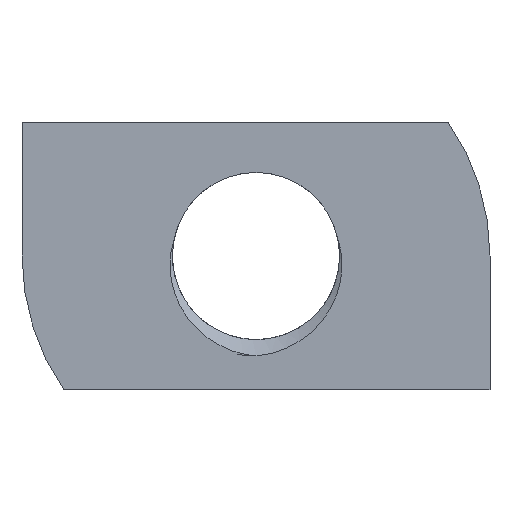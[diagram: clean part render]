
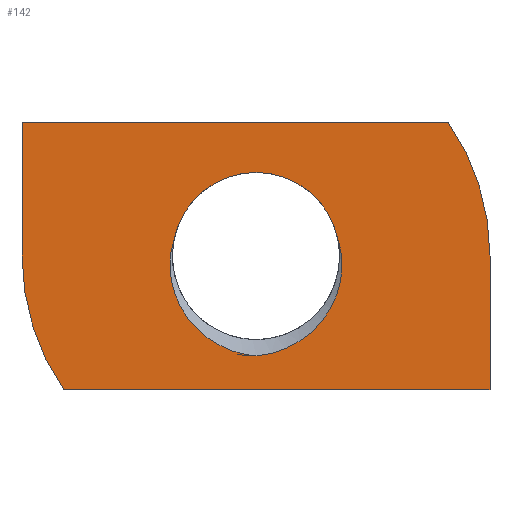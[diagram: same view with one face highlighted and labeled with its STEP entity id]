
A CAD part, front view. The second image highlights one B-rep face of the part: STEP entity #142.
In plain terms, the highlighted planar face has unit normal (0, -1, 0).
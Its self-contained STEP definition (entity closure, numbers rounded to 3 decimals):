
#26 = B_SPLINE_CURVE_WITH_KNOTS ( 'NONE', 3,
 ( #668, #1500, #1274, #1051, #834, #618, #403, #201, #2067, #1862, #1653, #1445, #1216, #998, #779, #564 ),
 .UNSPECIFIED., .F., .F.,
 ( 4, 2, 2, 2, 2, 2, 2, 4 ),
 ( 0.003, 0.004, 0.004, 0.005, 0.006, 0.006, 0.007, 0.008 ),
 .UNSPECIFIED. ) ;
#43 = LINE ( 'NONE', #1922, #118 ) ;
#51 = ORIENTED_EDGE ( 'NONE', *, *, #596, .T. ) ;
#64 = EDGE_CURVE ( 'NONE', #367, #1914, #1995, .T. ) ;
#67 = VERTEX_POINT ( 'NONE', #2012 ) ;
#95 = CIRCLE ( 'NONE', #1015, 2.5 ) ;
#110 = ORIENTED_EDGE ( 'NONE', *, *, #2034, .T. ) ;
#118 = VECTOR ( 'NONE', #1712, 1000. ) ;
#142 = ADVANCED_FACE ( 'NONE', ( #1053, #1280 ), #1095, .F. ) ;
#143 = ORIENTED_EDGE ( 'NONE', *, *, #1989, .F. ) ;
#166 = CARTESIAN_POINT ( 'NONE',  ( 2.571, 0., -0.486 ) ) ;
#201 = CARTESIAN_POINT ( 'NONE',  ( -2.295, 0., -1.466 ) ) ;
#210 = EDGE_LOOP ( 'NONE', ( #379, #143, #265 ) ) ;
#214 = CARTESIAN_POINT ( 'NONE',  ( 0.797, 0., -2.812 ) ) ;
#250 = CARTESIAN_POINT ( 'NONE',  ( -7., 0., 0. ) ) ;
#265 = ORIENTED_EDGE ( 'NONE', *, *, #1026, .T. ) ;
#336 = DIRECTION ( 'NONE',  ( 1., 0., 0. ) ) ;
#353 = DIRECTION ( 'NONE',  ( -1., 0., 0. ) ) ;
#367 = VERTEX_POINT ( 'NONE', #250 ) ;
#370 = CARTESIAN_POINT ( 'NONE',  ( 2.506, 0., -0.892 ) ) ;
#379 = ORIENTED_EDGE ( 'NONE', *, *, #1074, .F. ) ;
#403 = CARTESIAN_POINT ( 'NONE',  ( -2.45, 0., -1.088 ) ) ;
#420 = CARTESIAN_POINT ( 'NONE',  ( 0.407, 0., -2.933 ) ) ;
#446 = DIRECTION ( 'NONE',  ( -1., 0., 0. ) ) ;
#456 = CARTESIAN_POINT ( 'NONE',  ( -5.745, 0., -4. ) ) ;
#531 = DIRECTION ( 'NONE',  ( 0., 0., -1. ) ) ;
#546 = CARTESIAN_POINT ( 'NONE',  ( -7., 0., 4. ) ) ;
#554 = VERTEX_POINT ( 'NONE', #634 ) ;
#559 = AXIS2_PLACEMENT_3D ( 'NONE', #778, #563, #353 ) ;
#563 = DIRECTION ( 'NONE',  ( 0., -1., 0. ) ) ;
#564 = CARTESIAN_POINT ( 'NONE',  ( 0., 0., -2.991 ) ) ;
#581 = CARTESIAN_POINT ( 'NONE',  ( 2.45, 0., -1.088 ) ) ;
#596 = EDGE_CURVE ( 'NONE', #1728, #367, #964, .T. ) ;
#618 = CARTESIAN_POINT ( 'NONE',  ( -2.507, 0., -0.887 ) ) ;
#632 = CARTESIAN_POINT ( 'NONE',  ( 0.206, 0., -2.973 ) ) ;
#634 = CARTESIAN_POINT ( 'NONE',  ( 0., 0., -2.991 ) ) ;
#647 = DIRECTION ( 'NONE',  ( -1., 0., 0. ) ) ;
#658 = DIRECTION ( 'NONE',  ( 0., 1., 0. ) ) ;
#668 = CARTESIAN_POINT ( 'NONE',  ( -2.444, 0., 0.528 ) ) ;
#727 = DIRECTION ( 'NONE',  ( 1., 0., 0. ) ) ;
#730 = DIRECTION ( 'NONE',  ( -1., 0., 0. ) ) ;
#734 = ORIENTED_EDGE ( 'NONE', *, *, #64, .T. ) ;
#745 = CARTESIAN_POINT ( 'NONE',  ( -7., 0., 4. ) ) ;
#761 = LINE ( 'NONE', #546, #1707 ) ;
#778 = CARTESIAN_POINT ( 'NONE',  ( 0., 0., 0. ) ) ;
#779 = CARTESIAN_POINT ( 'NONE',  ( -0.412, 0., -2.955 ) ) ;
#798 = CARTESIAN_POINT ( 'NONE',  ( 2.294, 0., -1.468 ) ) ;
#834 = CARTESIAN_POINT ( 'NONE',  ( -2.571, 0., -0.483 ) ) ;
#848 = CARTESIAN_POINT ( 'NONE',  ( 0., 0., -2.991 ) ) ;
#865 = DIRECTION ( 'NONE',  ( 0., -1., 0. ) ) ;
#875 = CARTESIAN_POINT ( 'NONE',  ( -7., 0., 4. ) ) ;
#946 = CARTESIAN_POINT ( 'NONE',  ( -7., 0., -4. ) ) ;
#949 = DIRECTION ( 'NONE',  ( 0., 1., 0. ) ) ;
#962 = CARTESIAN_POINT ( 'NONE',  ( 7., 0., 0. ) ) ;
#964 = LINE ( 'NONE', #745, #1001 ) ;
#998 = CARTESIAN_POINT ( 'NONE',  ( -0.812, 0., -2.829 ) ) ;
#1001 = VECTOR ( 'NONE', #531, 1000. ) ;
#1014 = CARTESIAN_POINT ( 'NONE',  ( 2.193, 0., -1.65 ) ) ;
#1015 = AXIS2_PLACEMENT_3D ( 'NONE', #1170, #949, #730 ) ;
#1026 = EDGE_CURVE ( 'NONE', #1045, #1372, #95, .T. ) ;
#1045 = VERTEX_POINT ( 'NONE', #1769 ) ;
#1051 = CARTESIAN_POINT ( 'NONE',  ( -2.579, 0., -0.277 ) ) ;
#1053 = FACE_OUTER_BOUND ( 'NONE', #1471, .T. ) ;
#1074 = EDGE_CURVE ( 'NONE', #554, #1372, #1455, .T. ) ;
#1078 = VERTEX_POINT ( 'NONE', #962 ) ;
#1084 = CARTESIAN_POINT ( 'NONE',  ( 0., 0., 0. ) ) ;
#1095 = PLANE ( 'NONE',  #1391 ) ;
#1125 = CIRCLE ( 'NONE', #1387, 7. ) ;
#1166 = LINE ( 'NONE', #946, #1782 ) ;
#1170 = CARTESIAN_POINT ( 'NONE',  ( 0., 0., 0. ) ) ;
#1216 = CARTESIAN_POINT ( 'NONE',  ( -1.344, 0., -2.527 ) ) ;
#1233 = CARTESIAN_POINT ( 'NONE',  ( 1.956, 0., -1.981 ) ) ;
#1240 = EDGE_CURVE ( 'NONE', #1078, #67, #1125, .T. ) ;
#1264 = EDGE_CURVE ( 'NONE', #1728, #67, #761, .T. ) ;
#1267 = CARTESIAN_POINT ( 'NONE',  ( 2.444, 0., 0.528 ) ) ;
#1274 = CARTESIAN_POINT ( 'NONE',  ( -2.549, 0., 0.133 ) ) ;
#1280 = FACE_BOUND ( 'NONE', #210, .T. ) ;
#1372 = VERTEX_POINT ( 'NONE', #1267 ) ;
#1387 = AXIS2_PLACEMENT_3D ( 'NONE', #1084, #865, #647 ) ;
#1391 = AXIS2_PLACEMENT_3D ( 'NONE', #875, #658, #446 ) ;
#1407 = CARTESIAN_POINT ( 'NONE',  ( 2.444, 0., 0.528 ) ) ;
#1418 = ORIENTED_EDGE ( 'NONE', *, *, #1240, .T. ) ;
#1445 = CARTESIAN_POINT ( 'NONE',  ( -1.513, 0., -2.406 ) ) ;
#1455 = B_SPLINE_CURVE_WITH_KNOTS ( 'NONE', 3,
 ( #848, #632, #420, #214, #2080, #1879, #1669, #1463, #1233, #1014, #798, #581, #370, #166, #2031, #1830, #1624, #1407 ),
 .UNSPECIFIED., .F., .F.,
 ( 4, 2, 2, 2, 2, 2, 2, 2, 4 ),
 ( 0., 0.001, 0.001, 0.002, 0.002, 0.003, 0.004, 0.004, 0.005 ),
 .UNSPECIFIED. ) ;
#1463 = CARTESIAN_POINT ( 'NONE',  ( 1.817, 0., -2.134 ) ) ;
#1471 = EDGE_LOOP ( 'NONE', ( #51, #734, #110, #1695, #1418, #1548 ) ) ;
#1500 = CARTESIAN_POINT ( 'NONE',  ( -2.509, 0., 0.334 ) ) ;
#1548 = ORIENTED_EDGE ( 'NONE', *, *, #1264, .F. ) ;
#1624 = CARTESIAN_POINT ( 'NONE',  ( 2.509, 0., 0.334 ) ) ;
#1653 = CARTESIAN_POINT ( 'NONE',  ( -1.818, 0., -2.133 ) ) ;
#1669 = CARTESIAN_POINT ( 'NONE',  ( 1.51, 0., -2.409 ) ) ;
#1695 = ORIENTED_EDGE ( 'NONE', *, *, #2068, .F. ) ;
#1701 = CARTESIAN_POINT ( 'NONE',  ( 7., 0., -4. ) ) ;
#1707 = VECTOR ( 'NONE', #336, 1000. ) ;
#1712 = DIRECTION ( 'NONE',  ( 0., 0., -1. ) ) ;
#1728 = VERTEX_POINT ( 'NONE', #1869 ) ;
#1769 = CARTESIAN_POINT ( 'NONE',  ( -2.444, 0., 0.528 ) ) ;
#1782 = VECTOR ( 'NONE', #727, 1000. ) ;
#1830 = CARTESIAN_POINT ( 'NONE',  ( 2.549, 0., 0.129 ) ) ;
#1862 = CARTESIAN_POINT ( 'NONE',  ( -1.956, 0., -1.981 ) ) ;
#1869 = CARTESIAN_POINT ( 'NONE',  ( -7., 0., 4. ) ) ;
#1879 = CARTESIAN_POINT ( 'NONE',  ( 1.344, 0., -2.527 ) ) ;
#1914 = VERTEX_POINT ( 'NONE', #456 ) ;
#1922 = CARTESIAN_POINT ( 'NONE',  ( 7., 0., 4. ) ) ;
#1924 = VERTEX_POINT ( 'NONE', #1701 ) ;
#1989 = EDGE_CURVE ( 'NONE', #1045, #554, #26, .T. ) ;
#1995 = CIRCLE ( 'NONE', #559, 7. ) ;
#2012 = CARTESIAN_POINT ( 'NONE',  ( 5.745, 0., 4. ) ) ;
#2031 = CARTESIAN_POINT ( 'NONE',  ( 2.579, 0., -0.278 ) ) ;
#2034 = EDGE_CURVE ( 'NONE', #1914, #1924, #1166, .T. ) ;
#2067 = CARTESIAN_POINT ( 'NONE',  ( -2.196, 0., -1.646 ) ) ;
#2068 = EDGE_CURVE ( 'NONE', #1078, #1924, #43, .T. ) ;
#2080 = CARTESIAN_POINT ( 'NONE',  ( 0.988, 0., -2.729 ) ) ;
